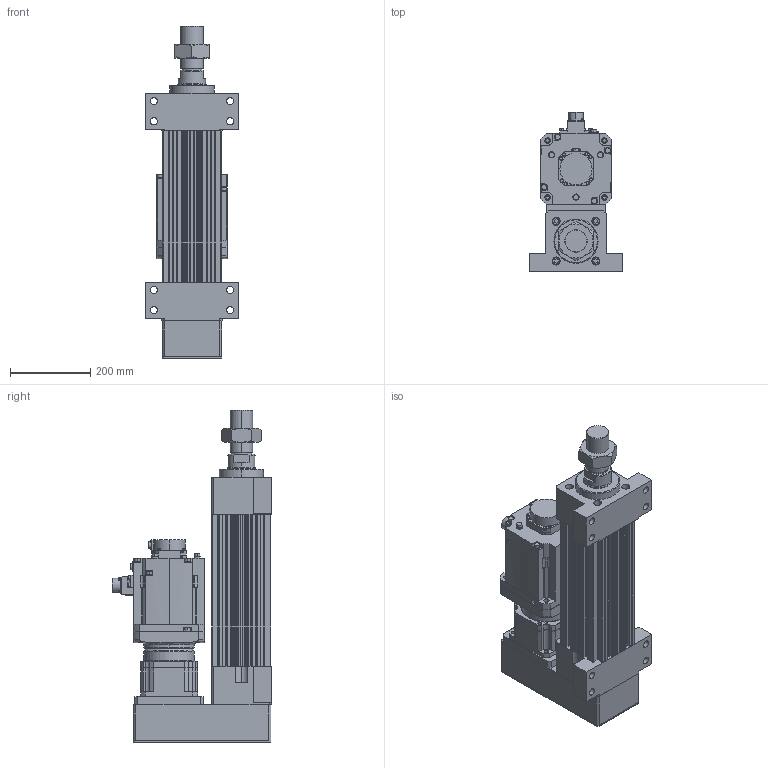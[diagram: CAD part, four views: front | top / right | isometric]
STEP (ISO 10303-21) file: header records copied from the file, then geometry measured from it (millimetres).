
FILE_DESCRIPTION (( 'STEP AP203' ), '1' );
FILE_NAME ('HES150NS(HS)-P100-W050G00-M-FFB.STEP', '2026-06-10T06:36:21', ( 'tms' ), ( '' ), 'SwSTEP 2.0', 'SolidWorks 2013', '' );
FILE_SCHEMA (( 'CONFIG_CONTROL_DESIGN' ));
Length unit declared in the file: millimetre
Products named in the file (9): HES150-M-ROD-100; HES150-P-G142; HES150NS(HS)-P100-W050G00-M-FFB; AB1423; AB1421; M56X2.0P; HG-SR502B; HES150-FFB-100; AB1422
Assembly tree (8 placements, depth 2):
  HES150NS(HS)-P100-W050G00-M-FFB
    HES150-FFB-100
    HES150-M-ROD-100
    M56X2.0P
    HES150-P-G142
    HG-SR502B
    AB1421
    AB1422
    AB1423
Bounding box: 230 x 395.85 x 826 mm (x, y, z)
Volume: 16971223.1 mm3; surface area: 1631097.3 mm2
Topology: 5 solids, 19 shells, 1502 faces, 3922 edges, 2558 vertices
Faces by surface type: cylinder 698, plane 590, cone 132, bspline 76, torus 6
Entity records: 55282 total; most frequent: CARTESIAN_POINT 16792, DIRECTION 8058, ORIENTED_EDGE 7770, EDGE_CURVE 3907, AXIS2_PLACEMENT_3D 3049, VERTEX_POINT 2558, LINE 1960, VECTOR 1960
